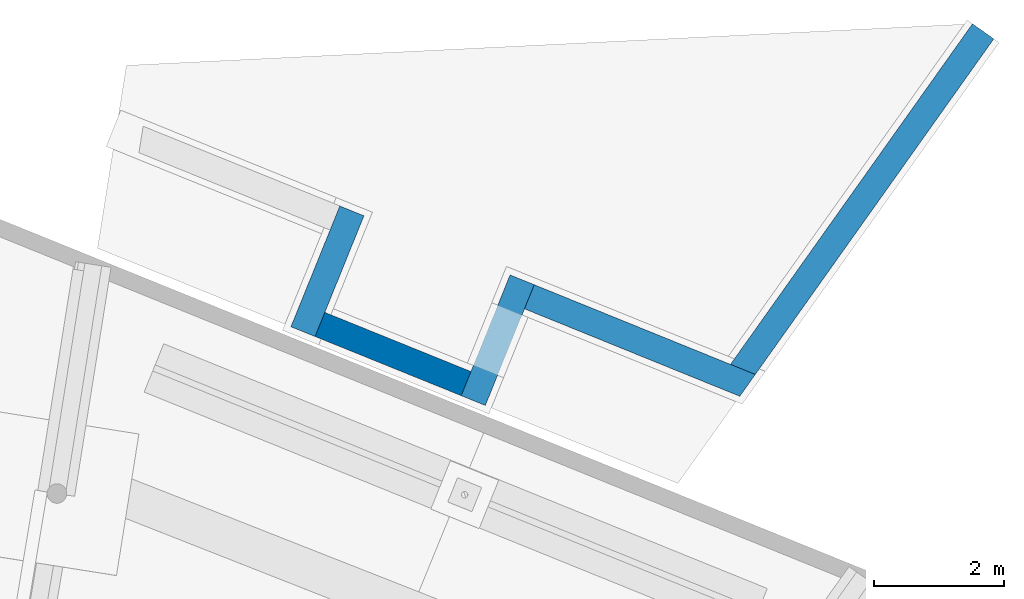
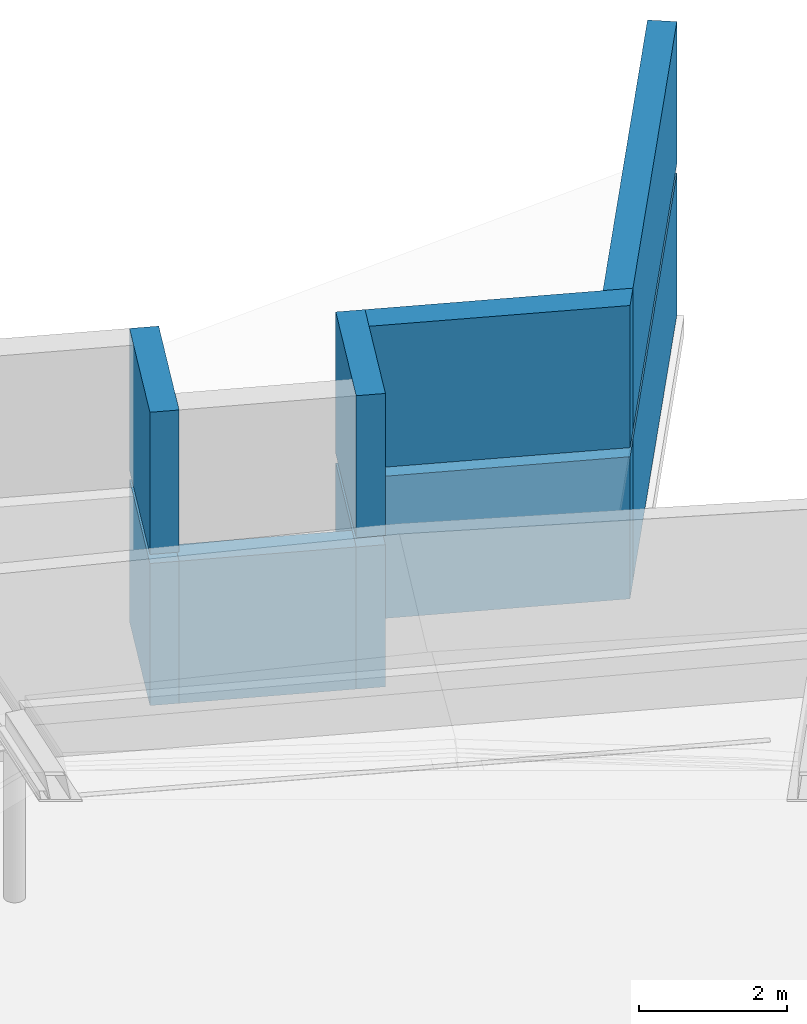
# One storey, part 8 of 8: 9 walls.
"""IFC2X3 building model written with IfcOpenShell, lengths in millimetres."""

from ifc_helpers import new_model, si_unit, frame, origin_with_axes, place, context, subcontext, project, spatial, faceted_brep, material, type_object, element, save


model = new_model("IFC2X3")

# Units and contexts
model_context = context("Model", 3, precision=1e-05, world=origin_with_axes())
body_context = subcontext(model_context, "Body", "Model", "MODEL_VIEW")
ifc_project = project(units=[si_unit("LENGTHUNIT", "METRE", prefix="MILLI"), si_unit("AREAUNIT", "SQUARE_METRE"), si_unit("VOLUMEUNIT", "CUBIC_METRE"), si_unit("MASSUNIT", "GRAM", prefix="KILO"), si_unit("TIMEUNIT", "SECOND"), si_unit("PLANEANGLEUNIT", "RADIAN"), si_unit("SOLIDANGLEUNIT", "STERADIAN"), si_unit("THERMODYNAMICTEMPERATUREUNIT", "DEGREE_CELSIUS"), si_unit("LUMINOUSINTENSITYUNIT", "LUMEN")], contexts=[model_context])

# Site, building, storey
site_placement = place(None, origin_with_axes())
site = spatial("IfcSite", under=ifc_project, at=site_placement, Name="Site", CompositionType="ELEMENT")
building_placement = place(site_placement, origin_with_axes())
building = spatial("IfcBuilding", under=site, at=building_placement, Name="Undefined", CompositionType="ELEMENT")
storey_placement = place(building_placement, origin_with_axes())
storey = spatial("IfcBuildingStorey", under=building, at=storey_placement, Name="Undefined", CompositionType="ELEMENT", Elevation=0.0)

# Walls
ifc_material = material(Name="CONCRETE/C35/45")
wall_type = type_object("IfcWallType", Name="2350*400", PredefinedType="NOTDEFINED")
for number, where, z_axis, x_axis in (
    (1, (53051.0732144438, 55201.731700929, 40675.0), (0.0, 0.0, 1.0), (0.579263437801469, 0.815140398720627, 0.0)),
    (2, (53051.0732144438, 55201.731700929, 38175.0), (0.0, 0.0, 1.0), (0.579263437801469, 0.815140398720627, 0.0)),
):
    element("IfcWall", number, at=place(storey_placement, frame(where, z_axis=z_axis, x_axis=x_axis)), inside=storey, type_object=wall_type, material=ifc_material, Name="PLASSTØPTVEGG", ObjectType="2350*400", context=body_context, shape_type="Brep", body=[
        faceted_brep([(409.735845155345, 199.999999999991, -1175.0), (409.735845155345, 199.999999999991, 1175.0), (6825.60938778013, 199.999999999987, 1175.0), (6825.60938778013, 199.999999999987, -1175.0), (504.35888078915, -200.000000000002, 1175.0), (6825.60938778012, -200.000000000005, 1175.0), (504.35888078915, -200.000000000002, -1175.0), (6825.60938778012, -200.000000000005, -1175.0)], [[[0, 1, 2, 3]], [[1, 4, 5, 2]], [[4, 6, 7, 5]], [[6, 0, 3, 7]], [[5, 7, 3, 2]], [[6, 4, 1, 0]]]),
    ])
wall_placement = place(storey_placement, frame((46821.8601806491, 56264.6719022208, 38175.0), z_axis=(0.0, 0.0, 1.0), x_axis=(0.926929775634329, -0.375234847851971, 0.0)))
element("IfcWall", 3, at=wall_placement, inside=storey, type_object=wall_type, material=ifc_material, Name="PLASSTØPTVEGG", ObjectType="2350*400", context=body_context, shape_type="Brep", body=[
    faceted_brep([(0.0, 200.0, -1175.0), (0.0, 200.0, 1175.0), (2420.19469600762, 200.000000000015, 1175.0), (2420.19469600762, 200.000000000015, -1175.0), (0.0, -200.0, 1175.0), (2420.19469600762, -199.999999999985, 1175.0), (0.0, -200.0, -1175.0), (2420.19469600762, -199.999999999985, -1175.0)], [[[0, 1, 2, 3]], [[1, 4, 5, 2]], [[4, 6, 7, 5]], [[6, 0, 3, 7]], [[5, 7, 3, 2]], [[6, 4, 1, 0]]]),
])
for number, where, z_axis, x_axis in (
    (4, (49926.4944481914, 56949.7071238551, 38175.0), (0.0, 0.0, 1.0), (-0.375482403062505, -0.926829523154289, 0.0)),
    (5, (47312.4121125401, 58008.0414740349, 38175.0), (0.0, 0.0, 1.0), (-0.375482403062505, -0.926829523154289, 0.0)),
    (6, (49926.4944481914, 56949.7071238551, 40675.0), (0.0, 0.0, 1.0), (-0.375482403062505, -0.926829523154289, 0.0)),
    (7, (47312.4121125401, 58008.0414740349, 40675.0), (0.0, 0.0, 1.0), (-0.375482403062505, -0.926829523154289, 0.0)),
):
    element("IfcWall", number, at=place(storey_placement, frame(where, z_axis=z_axis, x_axis=x_axis)), inside=storey, type_object=wall_type, material=ifc_material, Name="PLASSTØPTVEGG", ObjectType="2350*400", context=body_context, shape_type="Brep", body=[
        faceted_brep([(0.0, 200.0, -1175.0), (0.0, 200.0, 1175.0), (2000.00000000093, 200.0, 1175.0), (2000.00000000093, 200.0, -1175.0), (0.0, -200.0, 1175.0), (2000.00000000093, -200.000000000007, 1175.0), (0.0, -200.0, -1175.0), (2000.00000000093, -200.000000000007, -1175.0)], [[[0, 1, 2, 3]], [[1, 4, 5, 2]], [[4, 6, 7, 5]], [[6, 0, 3, 7]], [[5, 7, 3, 2]], [[6, 4, 1, 0]]]),
    ])
for number, where, z_axis, x_axis in (
    (8, (50036.6489465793, 56689.2913393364, 38175.0), (0.0, 0.0, 1.0), (0.926596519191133, -0.376057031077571, 0.0)),
    (9, (50036.6489465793, 56689.2913393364, 40675.0), (0.0, 0.0, 1.0), (0.926596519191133, -0.376057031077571, 0.0)),
):
    element("IfcWall", number, at=place(storey_placement, frame(where, z_axis=z_axis, x_axis=x_axis)), inside=storey, type_object=wall_type, material=ifc_material, Name="PLASSTØPTVEGG", ObjectType="2350*400", context=body_context, shape_type="Brep", body=[
        faceted_brep([(0.0, 200.0, -1175.0), (0.0, 200.0, 1175.0), (3663.29564750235, 200.0, 1175.0), (3663.29564750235, 200.0, -1175.0), (0.0, -200.0, 1175.0), (3568.67314383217, -199.999999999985, 1175.0), (0.0, -200.0, -1175.0), (3568.67314383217, -199.999999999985, -1175.0)], [[[0, 1, 2, 3]], [[1, 4, 5, 2]], [[4, 6, 7, 5]], [[6, 0, 3, 7]], [[5, 7, 3, 2]], [[6, 4, 1, 0]]]),
    ])

save(model, "model.ifc")
